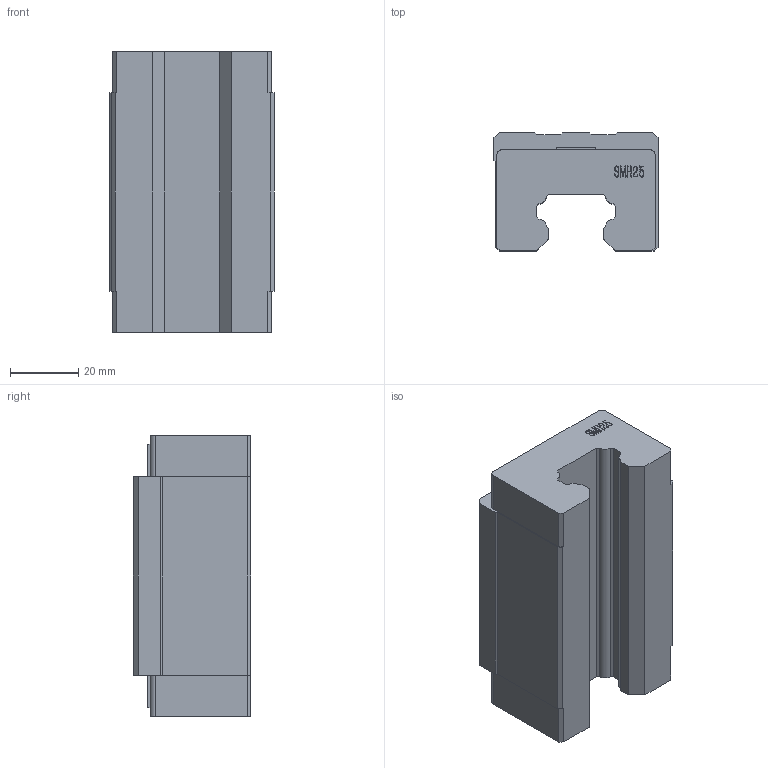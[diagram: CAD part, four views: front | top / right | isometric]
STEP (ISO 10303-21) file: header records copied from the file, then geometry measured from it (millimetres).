
FILE_DESCRIPTION (( 'STEP AP203' ), '1' );
FILE_NAME ('SMH25B.stp', '2019-09-24T08:56:30', ( 'pgos' ), ( '' ), 'SwSTEP 2.0', 'SolidWorks 2014', '' );
FILE_SCHEMA (( 'CONFIG_CONTROL_DESIGN' ));
Length unit declared in the file: millimetre
Products named in the file (1): SMH25B
Bounding box: 48 x 34.5 x 82 mm (x, y, z)
Volume: 100213.9 mm3; surface area: 19546.2 mm2
Topology: 1 solids, 1 shells, 214 faces, 613 edges, 402 vertices
Faces by surface type: plane 135, bspline 55, cylinder 16, cone 8
Entity records: 9252 total; most frequent: CARTESIAN_POINT 3973, ORIENTED_EDGE 1210, DIRECTION 847, EDGE_CURVE 605, VECTOR 463, LINE 463, VERTEX_POINT 402, EDGE_LOOP 223
